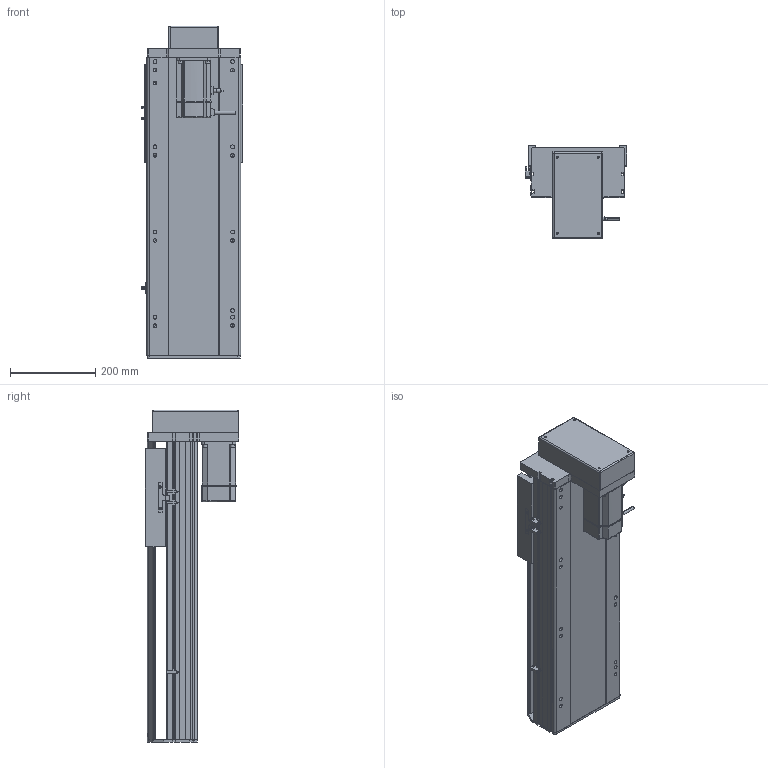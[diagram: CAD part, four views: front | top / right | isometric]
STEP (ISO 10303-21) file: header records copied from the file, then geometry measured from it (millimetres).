
FILE_DESCRIPTION (( 'STEP AP214' ), '1' );
FILE_NAME ('RTH22-XX-400-M-M75-C4.STEP', '2025-10-24T11:07:22', ( 'Microsoft' ), ( 'Microsoft' ), 'SwSTEP 2.0', 'SolidWorks 2018', '' );
FILE_SCHEMA (( 'AUTOMOTIVE_DESIGN' ));
Length unit declared in the file: millimetre
Products named in the file (10): N_RTH22-L-011菁釱^RTH22-XX-XX-M-M75-C4; N_RTH22-M-008-P75萇儂啣^RTH22-XX-XX-M-M75-C4; N_RTH22-L-004-SFS25賑釱^RTH22-XX-XX-M-M75-C4; N_750W萇儂^RTH22-XX-XX-M-M75-C4; RTH22-XX-400-M-M75-C4; N_RTH22-GY-001耜裔^RTH22-XX-XX-M-M75-C4; N_RTH22-M-007奻裔^RTH22-XX-XX-M-M75-C4; N_OMRON EE-SX672 传感器^RTH22-XX-XX-M-M75-C4; N_RTH22-GY-013外置感应片^RTH22-XX-XX-M-M75-C4; N_RTH22-M-018裔赽^RTH22-XX-XX-M-M75-C4
Assembly tree (11 placements, depth 2):
  RTH22-XX-400-M-M75-C4
    N_RTH22-L-011菁釱^RTH22-XX-XX-M-M75-C4
    N_RTH22-GY-001耜裔^RTH22-XX-XX-M-M75-C4
    N_750W萇儂^RTH22-XX-XX-M-M75-C4
    N_RTH22-M-008-P75萇儂啣^RTH22-XX-XX-M-M75-C4
    N_RTH22-M-007奻裔^RTH22-XX-XX-M-M75-C4
    N_RTH22-M-018裔赽^RTH22-XX-XX-M-M75-C4
    N_OMRON EE-SX672 传感器^RTH22-XX-XX-M-M75-C4  x3
    N_RTH22-GY-013外置感应片^RTH22-XX-XX-M-M75-C4
    N_RTH22-L-004-SFS25賑釱^RTH22-XX-XX-M-M75-C4
Bounding box: 238.5 x 218.5 x 779.7 mm (x, y, z)
Volume: 11832883.6 mm3; surface area: 1370864.5 mm2
Topology: 11 solids, 11 shells, 1569 faces, 4280 edges, 2765 vertices
Faces by surface type: plane 801, cylinder 439, bspline 279, cone 50
Entity records: 39025 total; most frequent: CARTESIAN_POINT 11920, ORIENTED_EDGE 5552, DIRECTION 5190, EDGE_CURVE 2776, VERTEX_POINT 1801, LINE 1752, VECTOR 1752, AXIS2_PLACEMENT_3D 1719
